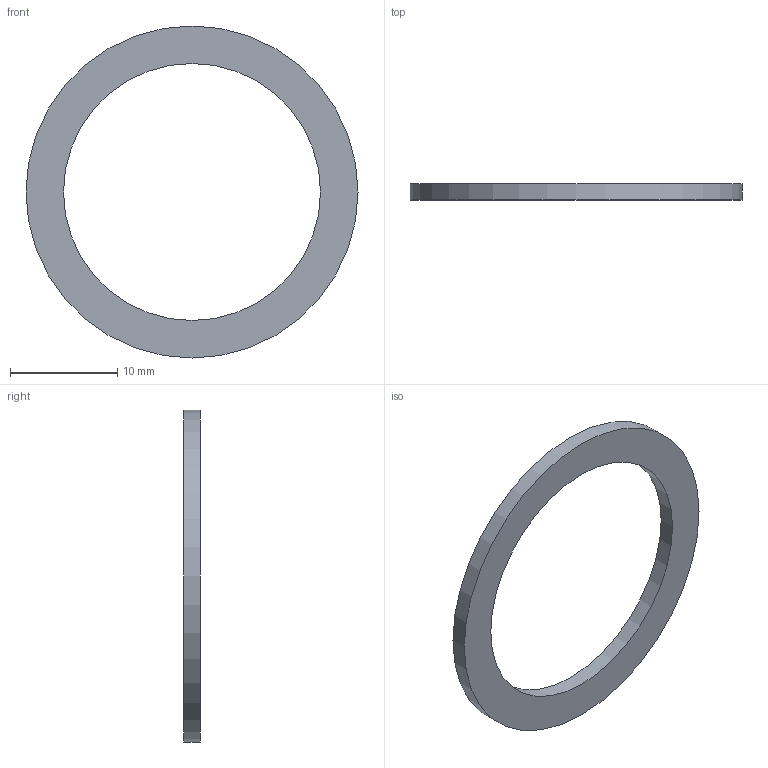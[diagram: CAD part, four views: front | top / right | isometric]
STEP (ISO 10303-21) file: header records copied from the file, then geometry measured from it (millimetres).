
FILE_DESCRIPTION(('FreeCAD Model'),'2;1');
FILE_NAME('Open CASCADE Shape Model','2026-11-20T08:25:39',('FreeCAD'),( 'FreeCAD'),'Open CASCADE STEP processor 7.8','FreeCAD','Unknown');
FILE_SCHEMA(('AUTOMOTIVE_DESIGN { 1 0 10303 214 1 1 1 1 }'));
Length unit declared in the file: millimetre
Products named in the file (1): Open CASCADE STEP translator 7.8 90
Bounding box: 31 x 1.5 x 31 mm (x, y, z)
Volume: 453.6 mm3; surface area: 863.9 mm2
Topology: 1 solids, 1 shells, 4 faces, 6 edges, 4 vertices
Faces by surface type: cylinder 2, plane 2
Full cylindrical faces by diameter (mm): 24 x1, 31 x1
Entity records: 108 total; most frequent: DIRECTION 20, CARTESIAN_POINT 15, ORIENTED_EDGE 12, AXIS2_PLACEMENT_3D 9, FACE_BOUND 6, EDGE_LOOP 6, EDGE_CURVE 6, ADVANCED_FACE 4
